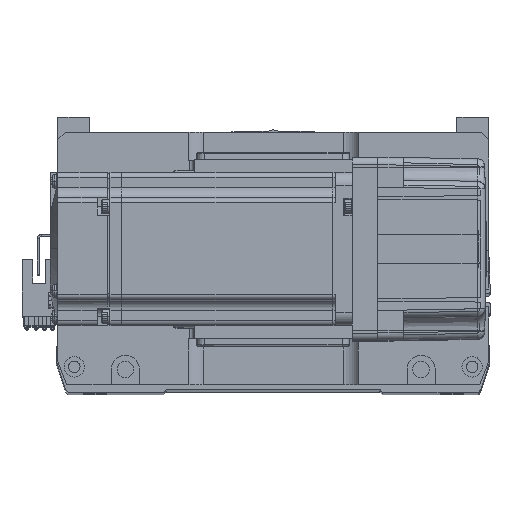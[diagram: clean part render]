
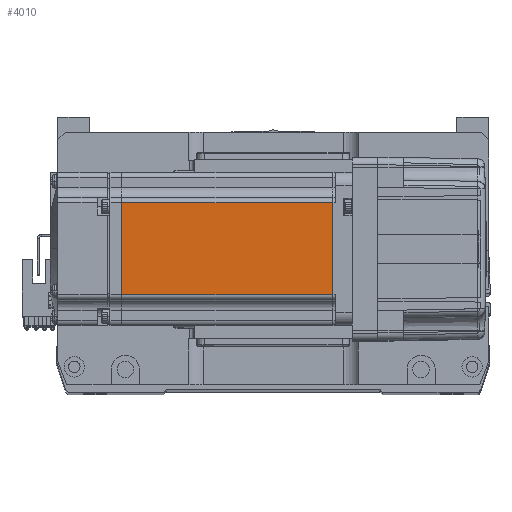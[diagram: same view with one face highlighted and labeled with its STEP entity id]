
A CAD part, top view. The second image highlights one B-rep face of the part: STEP entity #4010.
In plain terms, the highlighted planar face has unit normal (0, 0, 1).
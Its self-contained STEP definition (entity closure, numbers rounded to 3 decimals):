
#1693 = CARTESIAN_POINT ( 'NONE',  ( -7.75, 18., 30. ) ) ;
#3140 = EDGE_LOOP ( 'NONE', ( #43751, #11772, #3975, #7357 ) ) ;
#3178 = PLANE ( 'NONE',  #39259 ) ;
#3975 = ORIENTED_EDGE ( 'NONE', *, *, #48180, .T. ) ;
#4010 = ADVANCED_FACE ( 'NONE', ( #39678 ), #3178, .T. ) ;
#4396 = CARTESIAN_POINT ( 'NONE',  ( -7.75, -18., 30. ) ) ;
#5620 = VERTEX_POINT ( 'NONE', #58989 ) ;
#6663 = VECTOR ( 'NONE', #32182, 1000. ) ;
#7357 = ORIENTED_EDGE ( 'NONE', *, *, #43303, .F. ) ;
#7752 = VERTEX_POINT ( 'NONE', #1693 ) ;
#10205 = VERTEX_POINT ( 'NONE', #4396 ) ;
#10524 = DIRECTION ( 'NONE',  ( -1., 0., 0. ) ) ;
#11139 = LINE ( 'NONE', #50313, #6663 ) ;
#11298 = LINE ( 'NONE', #52645, #42466 ) ;
#11772 = ORIENTED_EDGE ( 'NONE', *, *, #49638, .T. ) ;
#13416 = VECTOR ( 'NONE', #43077, 1000. ) ;
#18104 = DIRECTION ( 'NONE',  ( 1., 0., 0. ) ) ;
#19592 = VECTOR ( 'NONE', #46076, 1000. ) ;
#21840 = CARTESIAN_POINT ( 'NONE',  ( -90.45, 0., 30. ) ) ;
#27045 = CARTESIAN_POINT ( 'NONE',  ( -90.45, -18., 30. ) ) ;
#30450 = EDGE_CURVE ( 'NONE', #7752, #10205, #56457, .T. ) ;
#32156 = CARTESIAN_POINT ( 'NONE',  ( -6.5, -25., 30. ) ) ;
#32182 = DIRECTION ( 'NONE',  ( -1., 0., 0. ) ) ;
#32887 = CARTESIAN_POINT ( 'NONE',  ( -7.75, 0., 30. ) ) ;
#37130 = DIRECTION ( 'NONE',  ( 0., 0., 1. ) ) ;
#39259 = AXIS2_PLACEMENT_3D ( 'NONE', #32156, #37130, #18104 ) ;
#39678 = FACE_OUTER_BOUND ( 'NONE', #3140, .T. ) ;
#42466 = VECTOR ( 'NONE', #10524, 1000. ) ;
#43077 = DIRECTION ( 'NONE',  ( 0., -1., 0. ) ) ;
#43303 = EDGE_CURVE ( 'NONE', #10205, #60899, #11139, .T. ) ;
#43751 = ORIENTED_EDGE ( 'NONE', *, *, #30450, .F. ) ;
#45518 = LINE ( 'NONE', #21840, #19592 ) ;
#46076 = DIRECTION ( 'NONE',  ( 0., -1., 0. ) ) ;
#48180 = EDGE_CURVE ( 'NONE', #5620, #60899, #45518, .T. ) ;
#49638 = EDGE_CURVE ( 'NONE', #7752, #5620, #11298, .T. ) ;
#50313 = CARTESIAN_POINT ( 'NONE',  ( -6.5, -18., 30. ) ) ;
#52645 = CARTESIAN_POINT ( 'NONE',  ( -6.5, 18., 30. ) ) ;
#56457 = LINE ( 'NONE', #32887, #13416 ) ;
#58989 = CARTESIAN_POINT ( 'NONE',  ( -90.45, 18., 30. ) ) ;
#60899 = VERTEX_POINT ( 'NONE', #27045 ) ;
